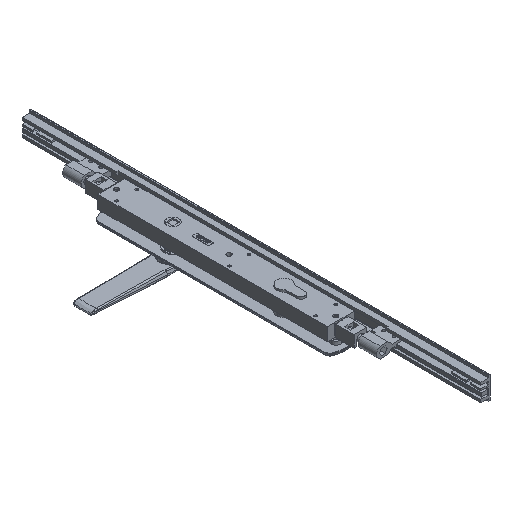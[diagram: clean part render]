
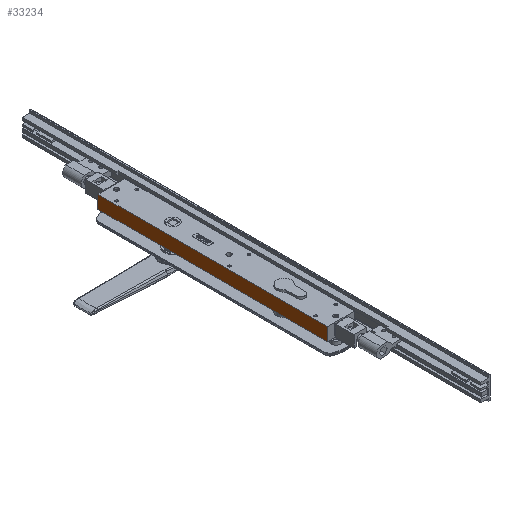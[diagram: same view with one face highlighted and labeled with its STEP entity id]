
A CAD part, isometric view. The second image highlights one B-rep face of the part: STEP entity #33234.
In plain terms, the highlighted planar face has unit normal (-1, 0, 0) as drawn and (1, 0, 0) by its records, which use the part's own axes.
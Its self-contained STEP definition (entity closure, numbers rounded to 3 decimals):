
#4 = CARTESIAN_POINT ( 'NONE',  ( 16., -199.25, -7.75 ) ) ;
#2197 = DIRECTION ( 'NONE',  ( 0., 0., -1. ) ) ;
#2451 = CARTESIAN_POINT ( 'NONE',  ( 16., 72.75, 7.75 ) ) ;
#2932 = EDGE_CURVE ( 'NONE', #19947, #25415, #13216, .T. ) ;
#3536 = VECTOR ( 'NONE', #23612, 1000. ) ;
#3646 = EDGE_CURVE ( 'NONE', #17768, #23791, #18057, .T. ) ;
#4064 = CARTESIAN_POINT ( 'NONE',  ( 16., 72.75, 7.75 ) ) ;
#5358 = EDGE_CURVE ( 'NONE', #17768, #19947, #19494, .T. ) ;
#5614 = DIRECTION ( 'NONE',  ( -1., 0., 0. ) ) ;
#5943 = DIRECTION ( 'NONE',  ( 0., -1., 0. ) ) ;
#6804 = DIRECTION ( 'NONE',  ( 0., 1., 0. ) ) ;
#7988 = PLANE ( 'NONE',  #15659 ) ;
#9347 = CARTESIAN_POINT ( 'NONE',  ( 16., 72.75, 7.75 ) ) ;
#10511 = ORIENTED_EDGE ( 'NONE', *, *, #2932, .F. ) ;
#12196 = VECTOR ( 'NONE', #2197, 1000. ) ;
#13216 = LINE ( 'NONE', #2451, #3536 ) ;
#15659 = AXIS2_PLACEMENT_3D ( 'NONE', #18610, #5614, #5943 ) ;
#15936 = VECTOR ( 'NONE', #26194, 1000. ) ;
#15945 = CARTESIAN_POINT ( 'NONE',  ( 16., 72.75, -7.75 ) ) ;
#16751 = ORIENTED_EDGE ( 'NONE', *, *, #3646, .T. ) ;
#16916 = CARTESIAN_POINT ( 'NONE',  ( 16., -199.25, 7.75 ) ) ;
#17768 = VERTEX_POINT ( 'NONE', #16916 ) ;
#18057 = LINE ( 'NONE', #28452, #12196 ) ;
#18235 = ORIENTED_EDGE ( 'NONE', *, *, #5358, .F. ) ;
#18610 = CARTESIAN_POINT ( 'NONE',  ( 16., 72.75, 7.75 ) ) ;
#18843 = LINE ( 'NONE', #15945, #15936 ) ;
#18891 = CARTESIAN_POINT ( 'NONE',  ( 16., 72.75, -7.75 ) ) ;
#19494 = LINE ( 'NONE', #9347, #27456 ) ;
#19947 = VERTEX_POINT ( 'NONE', #4064 ) ;
#23612 = DIRECTION ( 'NONE',  ( 0., 0., -1. ) ) ;
#23791 = VERTEX_POINT ( 'NONE', #4 ) ;
#24572 = EDGE_CURVE ( 'NONE', #23791, #25415, #18843, .T. ) ;
#25415 = VERTEX_POINT ( 'NONE', #18891 ) ;
#26194 = DIRECTION ( 'NONE',  ( 0., 1., 0. ) ) ;
#27456 = VECTOR ( 'NONE', #6804, 1000. ) ;
#28452 = CARTESIAN_POINT ( 'NONE',  ( 16., -199.25, 7.75 ) ) ;
#31505 = FACE_OUTER_BOUND ( 'NONE', #32266, .T. ) ;
#32266 = EDGE_LOOP ( 'NONE', ( #32599, #10511, #18235, #16751 ) ) ;
#32599 = ORIENTED_EDGE ( 'NONE', *, *, #24572, .T. ) ;
#33234 = ADVANCED_FACE ( 'NONE', ( #31505 ), #7988, .F. ) ;
